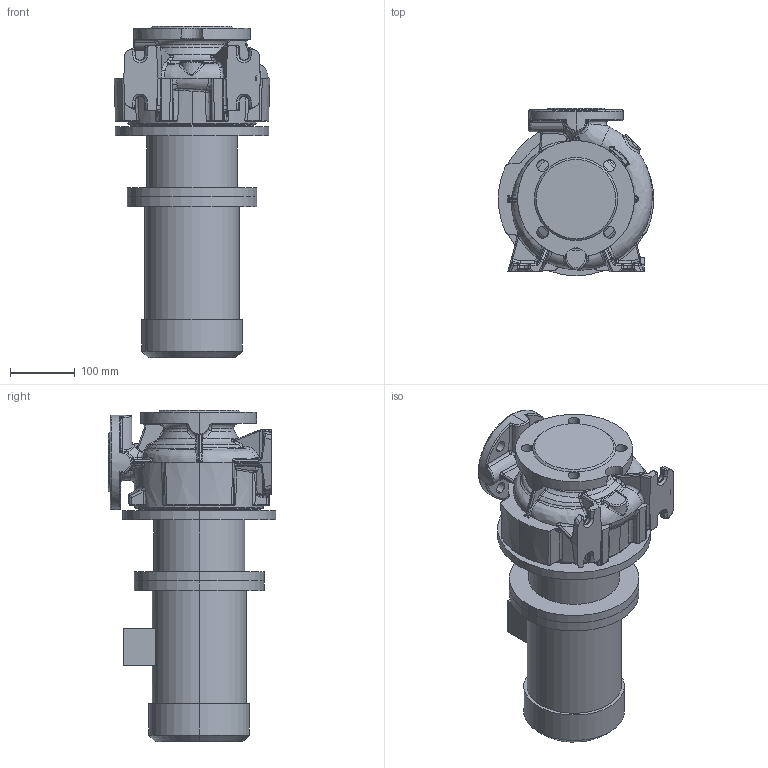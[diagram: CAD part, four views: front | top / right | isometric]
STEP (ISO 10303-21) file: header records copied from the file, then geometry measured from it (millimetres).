
FILE_DESCRIPTION (( 'STEP AP203' ), '1' );
FILE_NAME ('KRM65-40-125-4-0.75.STEP', '2026-08-11T05:27:47', ( '' ), ( '' ), 'SwSTEP 2.0', 'SolidWorks 2016', '' );
FILE_SCHEMA (( 'CONFIG_CONTROL_DESIGN' ));
Length unit declared in the file: millimetre
Products named in the file (1): KRM65-40-125-4-0.75
Bounding box: 239.46 x 258 x 509.8 mm (x, y, z)
Volume: 12242486.9 mm3; surface area: 734830.7 mm2
Topology: 5 solids, 5 shells, 924 faces, 2194 edges, 1266 vertices
Faces by surface type: bspline 403, cylinder 205, plane 142, torus 70, sphere 54, cone 50
Entity records: 58859 total; most frequent: CARTESIAN_POINT 40848, ORIENTED_EDGE 4324, DIRECTION 3072, EDGE_CURVE 2162, AXIS2_PLACEMENT_3D 1332, VERTEX_POINT 1262, EDGE_LOOP 954, ADVANCED_FACE 924
